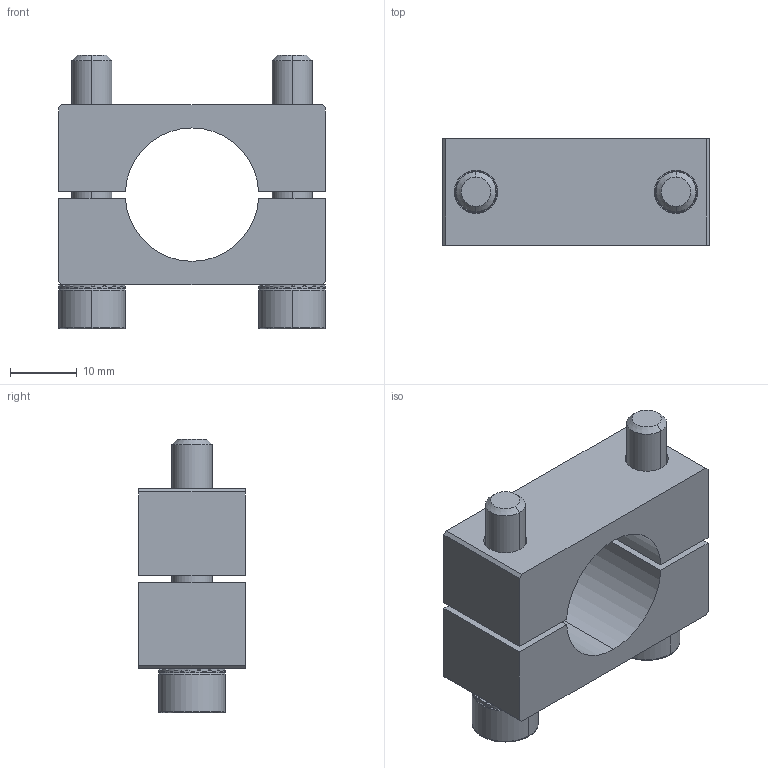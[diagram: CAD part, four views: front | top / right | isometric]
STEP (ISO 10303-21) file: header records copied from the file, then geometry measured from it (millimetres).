
FILE_DESCRIPTION (( 'STEP AP214' ), '1' );
FILE_NAME ('SMBS-20T16.STEP', '2019-11-07T01:33:02', ( '微软用户' ), ( '微软中国' ), 'SwSTEP 2.0', 'SolidWorks 2016', '' );
FILE_SCHEMA (( 'AUTOMOTIVE_DESIGN' ));
Length unit declared in the file: millimetre
Products named in the file (1): SMBS-20T16
Bounding box: 40 x 16 x 41 mm (x, y, z)
Volume: 13001.5 mm3; surface area: 8392.8 mm2
Topology: 6 solids, 6 shells, 365 faces, 1047 edges, 694 vertices
Faces by surface type: plane 326, cylinder 27, cone 8, bspline 4
Entity records: 16177 total; most frequent: CARTESIAN_POINT 2191, DIRECTION 2113, ORIENTED_EDGE 2094, EDGE_CURVE 1047, AXIS2_PLACEMENT_3D 712, VERTEX_POINT 694, VECTOR 689, LINE 689
